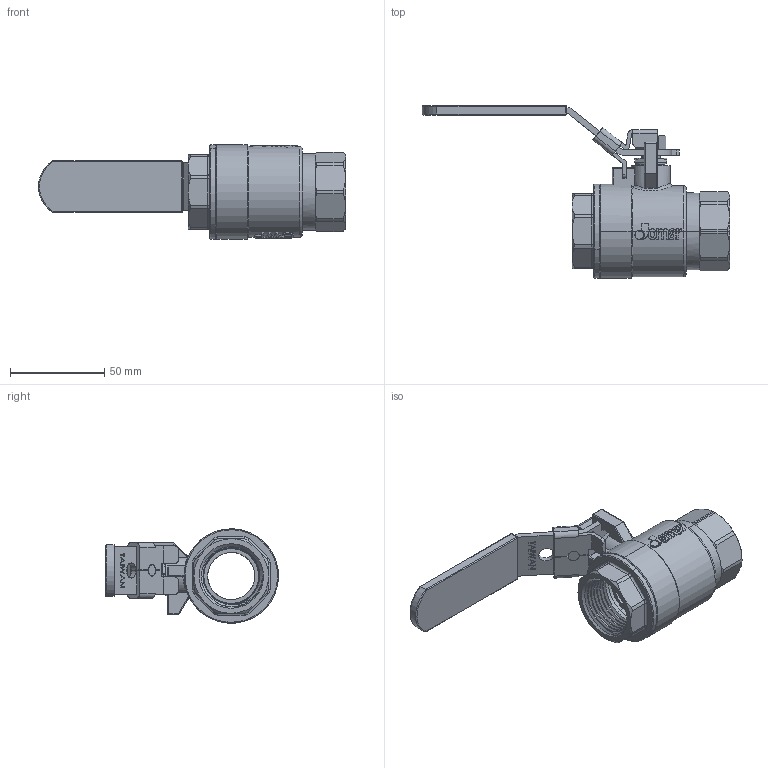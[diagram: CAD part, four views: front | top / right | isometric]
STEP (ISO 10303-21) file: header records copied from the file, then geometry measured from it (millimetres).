
FILE_DESCRIPTION (( 'STEP AP203' ), '1' );
FILE_NAME ('ABL745-Τ本玛-1''''JOMAR瞴恢舱-礚筣.STEP', '2025-12-15T07:48:39', ( '' ), ( '' ), 'SwSTEP 2.0', 'SolidWorks 2018', '' );
FILE_SCHEMA (( 'CONFIG_CONTROL_DESIGN' ));
Length unit declared in the file: millimetre
Products named in the file (14): EBL159; GBL205 (組裝); EBL205A; DN20-CBL215; DN20-掛鎖; NBL265; BBL705-1''''JOMAR球閥體-無鉛-端面無插溝; DN20 & DN25-CBL744-白色膠套-T&G-200CSSG-LH; EBL205B; RBL264; ABL745-有掛鎖-1''''JOMAR球閥組合-無鉛; TBL265(無鑽孔); DN20-CBL744-掛鎖把手組合; BBL705A-1''''JOMAR球閥八角頭-端面無插溝
Assembly tree (14 placements, depth 3):
  ABL745-有掛鎖-1''''JOMAR球閥組合-無鉛
    BBL705-1''''JOMAR球閥體-無鉛-端面無插溝
    RBL264
    EBL205A
    EBL205B
    GBL205 (組裝)
    BBL705A-1''''JOMAR球閥八角頭-端面無插溝
    EBL159  x2
    NBL265
    TBL265(無鑽孔)
    DN20-CBL744-掛鎖把手組合
      DN20-CBL215
      DN20-掛鎖
    DN20 & DN25-CBL744-白色膠套-T&G-200CSSG-LH
Bounding box: 162.7 x 91.61 x 50 mm (x, y, z)
Volume: 104300.9 mm3; surface area: 71804.1 mm2
Topology: 13 solids, 13 shells, 2353 faces, 6300 edges, 4142 vertices
Faces by surface type: plane 1254, bspline 649, cylinder 290, cone 116, torus 26, sphere 18
Entity records: 121197 total; most frequent: CARTESIAN_POINT 66305, ORIENTED_EDGE 12516, DIRECTION 8487, EDGE_CURVE 6258, VERTEX_POINT 4122, VECTOR 3905, LINE 3905, EDGE_LOOP 2548
